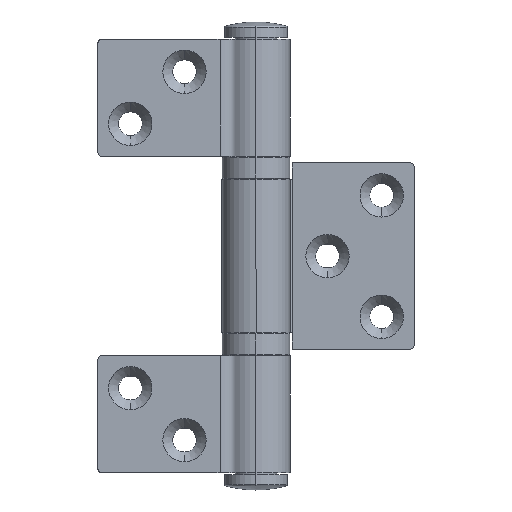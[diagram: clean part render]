
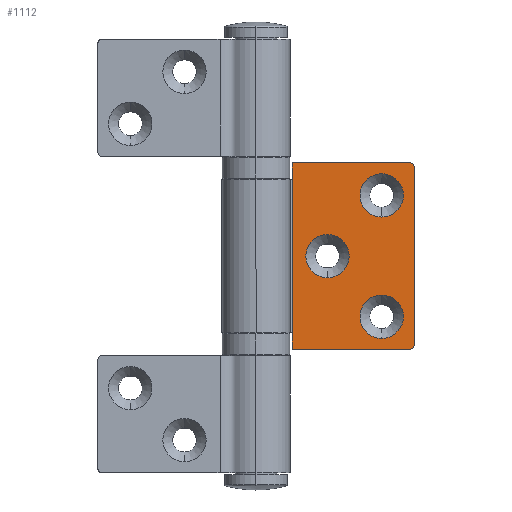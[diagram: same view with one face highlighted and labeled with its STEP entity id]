
A CAD part, top view. The second image highlights one B-rep face of the part: STEP entity #1112.
In plain terms, the highlighted planar face has unit normal (0, 0, 1) as drawn and (1, 0, 0) by its records, which use the part's own axes.
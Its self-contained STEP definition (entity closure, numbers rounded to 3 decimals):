
#11 = CARTESIAN_POINT ( 'NONE',  ( -6.1, 35.5, 1. ) ) ;
#54 = DIRECTION ( 'NONE',  ( 0., 0., 1. ) ) ;
#68 = AXIS2_PLACEMENT_3D ( 'NONE', #11, #313, #2056 ) ;
#71 = AXIS2_PLACEMENT_3D ( 'NONE', #2811, #231, #2567 ) ;
#83 = CARTESIAN_POINT ( 'NONE',  ( -6.1, 29., 2.5 ) ) ;
#93 = CARTESIAN_POINT ( 'NONE',  ( -6.1, 7.85, 0. ) ) ;
#144 = DIRECTION ( 'NONE',  ( 0., 1., 0. ) ) ;
#151 = CARTESIAN_POINT ( 'NONE',  ( -6.1, 29., 30.5 ) ) ;
#164 = ORIENTED_EDGE ( 'NONE', *, *, #2006, .T. ) ;
#192 = EDGE_CURVE ( 'NONE', #1107, #823, #1971, .T. ) ;
#231 = DIRECTION ( 'NONE',  ( -1., 0., 0. ) ) ;
#243 = CIRCLE ( 'NONE', #2285, 5. ) ;
#275 = DIRECTION ( 'NONE',  ( 0., 0., -1. ) ) ;
#291 = CARTESIAN_POINT ( 'NONE',  ( -6.1, 35.5, 42. ) ) ;
#313 = DIRECTION ( 'NONE',  ( 1., 0., 0. ) ) ;
#316 = CIRCLE ( 'NONE', #3303, 5. ) ;
#324 = VERTEX_POINT ( 'NONE', #919 ) ;
#343 = DIRECTION ( 'NONE',  ( 0., 0., -1. ) ) ;
#349 = ORIENTED_EDGE ( 'NONE', *, *, #1279, .F. ) ;
#372 = DIRECTION ( 'NONE',  ( -1., 0., 0. ) ) ;
#375 = DIRECTION ( 'NONE',  ( 0., 1., 0. ) ) ;
#415 = EDGE_CURVE ( 'NONE', #2058, #1588, #3021, .T. ) ;
#454 = EDGE_CURVE ( 'NONE', #760, #1475, #1557, .T. ) ;
#576 = ORIENTED_EDGE ( 'NONE', *, *, #1885, .F. ) ;
#674 = CARTESIAN_POINT ( 'NONE',  ( -6.1, 16.5, 16.5 ) ) ;
#743 = LINE ( 'NONE', #2544, #2448 ) ;
#760 = VERTEX_POINT ( 'NONE', #83 ) ;
#819 = CIRCLE ( 'NONE', #2260, 1. ) ;
#823 = VERTEX_POINT ( 'NONE', #2476 ) ;
#831 = LINE ( 'NONE', #3478, #1742 ) ;
#873 = CARTESIAN_POINT ( 'NONE',  ( -6.1, 29., 35.5 ) ) ;
#919 = CARTESIAN_POINT ( 'NONE',  ( -6.1, 36.5, 42. ) ) ;
#929 = LINE ( 'NONE', #2070, #1207 ) ;
#1019 = VECTOR ( 'NONE', #3497, 1000. ) ;
#1023 = EDGE_CURVE ( 'NONE', #3174, #1682, #2693, .T. ) ;
#1025 = CIRCLE ( 'NONE', #2403, 5. ) ;
#1053 = DIRECTION ( 'NONE',  ( 0., 0., -1. ) ) ;
#1102 = VERTEX_POINT ( 'NONE', #674 ) ;
#1107 = VERTEX_POINT ( 'NONE', #2973 ) ;
#1112 = ADVANCED_FACE ( 'NONE', ( #3230, #3266, #2412, #1244 ), #1301, .F. ) ;
#1207 = VECTOR ( 'NONE', #1053, 1000. ) ;
#1244 = FACE_OUTER_BOUND ( 'NONE', #3437, .T. ) ;
#1279 = EDGE_CURVE ( 'NONE', #2790, #1800, #2216, .T. ) ;
#1281 = CARTESIAN_POINT ( 'NONE',  ( -6.1, 29., 40.5 ) ) ;
#1291 = CARTESIAN_POINT ( 'NONE',  ( -6.1, 8.4, 0. ) ) ;
#1295 = CARTESIAN_POINT ( 'NONE',  ( -6.1, 29., 7.5 ) ) ;
#1301 = PLANE ( 'NONE',  #2629 ) ;
#1339 = EDGE_CURVE ( 'NONE', #2790, #1107, #743, .T. ) ;
#1475 = VERTEX_POINT ( 'NONE', #2518 ) ;
#1488 = CARTESIAN_POINT ( 'NONE',  ( -6.1, 29., 7.5 ) ) ;
#1533 = DIRECTION ( 'NONE',  ( -1., 0., 0. ) ) ;
#1557 = CIRCLE ( 'NONE', #2934, 5. ) ;
#1588 = VERTEX_POINT ( 'NONE', #1704 ) ;
#1642 = EDGE_CURVE ( 'NONE', #324, #1800, #819, .T. ) ;
#1682 = VERTEX_POINT ( 'NONE', #2301 ) ;
#1704 = CARTESIAN_POINT ( 'NONE',  ( -6.1, 8.4, 3.8 ) ) ;
#1719 = DIRECTION ( 'NONE',  ( 0., 0., 1. ) ) ;
#1742 = VECTOR ( 'NONE', #343, 1000. ) ;
#1768 = ORIENTED_EDGE ( 'NONE', *, *, #1023, .T. ) ;
#1792 = ORIENTED_EDGE ( 'NONE', *, *, #415, .T. ) ;
#1800 = VERTEX_POINT ( 'NONE', #3273 ) ;
#1863 = ORIENTED_EDGE ( 'NONE', *, *, #3493, .T. ) ;
#1865 = ORIENTED_EDGE ( 'NONE', *, *, #3221, .T. ) ;
#1885 = EDGE_CURVE ( 'NONE', #324, #2955, #831, .T. ) ;
#1894 = CARTESIAN_POINT ( 'NONE',  ( -6.1, 8.35, 3.8 ) ) ;
#1971 = LINE ( 'NONE', #2327, #3635 ) ;
#1982 = EDGE_CURVE ( 'NONE', #1588, #3174, #2978, .T. ) ;
#1990 = DIRECTION ( 'NONE',  ( 0., -1., 0. ) ) ;
#1998 = CARTESIAN_POINT ( 'NONE',  ( -6.1, 29., 35.5 ) ) ;
#2006 = EDGE_CURVE ( 'NONE', #823, #2058, #929, .T. ) ;
#2012 = ORIENTED_EDGE ( 'NONE', *, *, #2244, .T. ) ;
#2022 = DIRECTION ( 'NONE',  ( -1., 0., 0. ) ) ;
#2023 = VECTOR ( 'NONE', #375, 1000. ) ;
#2056 = DIRECTION ( 'NONE',  ( 0., 0., 1. ) ) ;
#2058 = VERTEX_POINT ( 'NONE', #1894 ) ;
#2063 = EDGE_LOOP ( 'NONE', ( #2387, #2012 ) ) ;
#2070 = CARTESIAN_POINT ( 'NONE',  ( -6.1, 8.35, 3.8 ) ) ;
#2072 = CARTESIAN_POINT ( 'NONE',  ( -6.1, 36.5, 1. ) ) ;
#2075 = ORIENTED_EDGE ( 'NONE', *, *, #3108, .T. ) ;
#2159 = DIRECTION ( 'NONE',  ( 0., 1., 0. ) ) ;
#2169 = CARTESIAN_POINT ( 'NONE',  ( -6.1, 16.5, 21.5 ) ) ;
#2173 = DIRECTION ( 'NONE',  ( 0., 0., 1. ) ) ;
#2183 = ORIENTED_EDGE ( 'NONE', *, *, #192, .T. ) ;
#2216 = LINE ( 'NONE', #2502, #2749 ) ;
#2244 = EDGE_CURVE ( 'NONE', #1475, #760, #1025, .T. ) ;
#2260 = AXIS2_PLACEMENT_3D ( 'NONE', #291, #2571, #3462 ) ;
#2285 = AXIS2_PLACEMENT_3D ( 'NONE', #873, #2022, #2893 ) ;
#2301 = CARTESIAN_POINT ( 'NONE',  ( -6.1, 35.5, 0. ) ) ;
#2327 = CARTESIAN_POINT ( 'NONE',  ( -6.1, 7.85, 39.2 ) ) ;
#2350 = AXIS2_PLACEMENT_3D ( 'NONE', #2169, #2755, #2737 ) ;
#2387 = ORIENTED_EDGE ( 'NONE', *, *, #454, .T. ) ;
#2403 = AXIS2_PLACEMENT_3D ( 'NONE', #1488, #372, #54 ) ;
#2412 = FACE_BOUND ( 'NONE', #3515, .T. ) ;
#2445 = CARTESIAN_POINT ( 'NONE',  ( -6.1, 7.85, 43. ) ) ;
#2448 = VECTOR ( 'NONE', #275, 1000. ) ;
#2452 = VECTOR ( 'NONE', #144, 1000. ) ;
#2476 = CARTESIAN_POINT ( 'NONE',  ( -6.1, 8.35, 39.2 ) ) ;
#2502 = CARTESIAN_POINT ( 'NONE',  ( -6.1, 7.85, 43. ) ) ;
#2518 = CARTESIAN_POINT ( 'NONE',  ( -6.1, 29., 12.5 ) ) ;
#2544 = CARTESIAN_POINT ( 'NONE',  ( -6.1, 8.4, 43. ) ) ;
#2567 = DIRECTION ( 'NONE',  ( 0., 0., 1. ) ) ;
#2571 = DIRECTION ( 'NONE',  ( 1., 0., 0. ) ) ;
#2629 = AXIS2_PLACEMENT_3D ( 'NONE', #2445, #1533, #3543 ) ;
#2662 = CARTESIAN_POINT ( 'NONE',  ( -6.1, 8.4, 43. ) ) ;
#2689 = EDGE_CURVE ( 'NONE', #2901, #2690, #243, .T. ) ;
#2690 = VERTEX_POINT ( 'NONE', #1281 ) ;
#2693 = LINE ( 'NONE', #93, #2023 ) ;
#2720 = CIRCLE ( 'NONE', #71, 5. ) ;
#2737 = DIRECTION ( 'NONE',  ( 0., 0., 1. ) ) ;
#2749 = VECTOR ( 'NONE', #2159, 1000. ) ;
#2755 = DIRECTION ( 'NONE',  ( -1., 0., 0. ) ) ;
#2771 = ORIENTED_EDGE ( 'NONE', *, *, #1982, .T. ) ;
#2790 = VERTEX_POINT ( 'NONE', #3325 ) ;
#2811 = CARTESIAN_POINT ( 'NONE',  ( -6.1, 16.5, 21.5 ) ) ;
#2892 = CIRCLE ( 'NONE', #68, 1. ) ;
#2893 = DIRECTION ( 'NONE',  ( 0., 0., 1. ) ) ;
#2901 = VERTEX_POINT ( 'NONE', #151 ) ;
#2934 = AXIS2_PLACEMENT_3D ( 'NONE', #1295, #3083, #2173 ) ;
#2955 = VERTEX_POINT ( 'NONE', #2072 ) ;
#2973 = CARTESIAN_POINT ( 'NONE',  ( -6.1, 8.4, 39.2 ) ) ;
#2978 = LINE ( 'NONE', #2662, #1019 ) ;
#3012 = CARTESIAN_POINT ( 'NONE',  ( -6.1, 16.5, 26.5 ) ) ;
#3021 = LINE ( 'NONE', #3628, #2452 ) ;
#3075 = EDGE_LOOP ( 'NONE', ( #3153, #1863 ) ) ;
#3083 = DIRECTION ( 'NONE',  ( -1., 0., 0. ) ) ;
#3108 = EDGE_CURVE ( 'NONE', #1682, #2955, #2892, .T. ) ;
#3148 = ORIENTED_EDGE ( 'NONE', *, *, #1642, .T. ) ;
#3153 = ORIENTED_EDGE ( 'NONE', *, *, #2689, .T. ) ;
#3174 = VERTEX_POINT ( 'NONE', #1291 ) ;
#3198 = DIRECTION ( 'NONE',  ( -1., 0., 0. ) ) ;
#3221 = EDGE_CURVE ( 'NONE', #3604, #1102, #3422, .T. ) ;
#3230 = FACE_BOUND ( 'NONE', #3075, .T. ) ;
#3266 = FACE_BOUND ( 'NONE', #2063, .T. ) ;
#3273 = CARTESIAN_POINT ( 'NONE',  ( -6.1, 35.5, 43. ) ) ;
#3303 = AXIS2_PLACEMENT_3D ( 'NONE', #1998, #3198, #1719 ) ;
#3325 = CARTESIAN_POINT ( 'NONE',  ( -6.1, 8.4, 43. ) ) ;
#3340 = ORIENTED_EDGE ( 'NONE', *, *, #3409, .T. ) ;
#3409 = EDGE_CURVE ( 'NONE', #1102, #3604, #2720, .T. ) ;
#3422 = CIRCLE ( 'NONE', #2350, 5. ) ;
#3437 = EDGE_LOOP ( 'NONE', ( #2183, #164, #1792, #2771, #1768, #2075, #576, #3148, #349, #3615 ) ) ;
#3462 = DIRECTION ( 'NONE',  ( 0., 0., 1. ) ) ;
#3478 = CARTESIAN_POINT ( 'NONE',  ( -6.1, 36.5, 43. ) ) ;
#3493 = EDGE_CURVE ( 'NONE', #2690, #2901, #316, .T. ) ;
#3497 = DIRECTION ( 'NONE',  ( 0., 0., -1. ) ) ;
#3515 = EDGE_LOOP ( 'NONE', ( #3340, #1865 ) ) ;
#3543 = DIRECTION ( 'NONE',  ( 0., 0., 1. ) ) ;
#3604 = VERTEX_POINT ( 'NONE', #3012 ) ;
#3615 = ORIENTED_EDGE ( 'NONE', *, *, #1339, .T. ) ;
#3628 = CARTESIAN_POINT ( 'NONE',  ( -6.1, 7.85, 3.8 ) ) ;
#3635 = VECTOR ( 'NONE', #1990, 1000. ) ;
